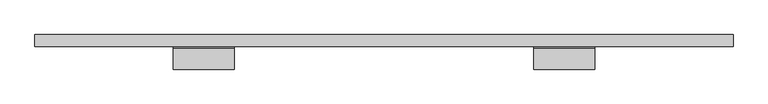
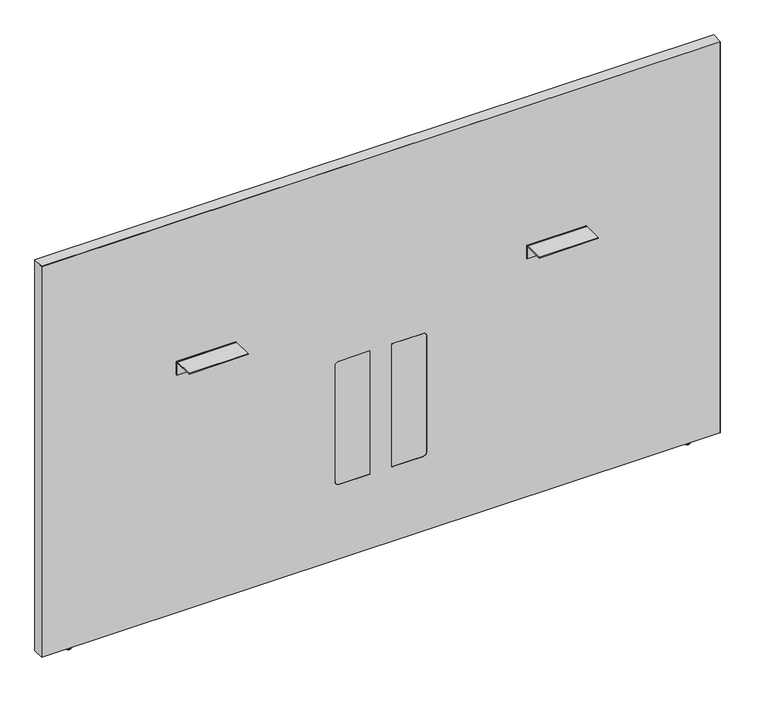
"""IFC4 building model written with IfcOpenShell, lengths in millimetres: furniture geometry, Steelcase - Answer Solution - Boundary Screen - Straight - Spanning : 42H x 69W."""

from ifc_helpers import new_model, si_unit, point, frame, frame_2d, origin, place, context, project, spatial, polyline, circle_curve, ellipse_curve, trimmed, segment, composite_curve, outline, extrude, source, transform, mapped, element, save
from ifc_brep_helpers import plane_surface, cylinder_surface, revolved_surface, advanced_brep


def furniture_e2635971(model_context):
    return source(origin(), model_context, "Body", "SolidModel", [
        advanced_brep(
        [(-569.2902705, -14.8449166, 9.9059849), (-569.2902705, -5.9309607, 9.9059849), (-569.2902705, -23.7588726, 9.9059849), (-569.2902705, -5.9309607, 2.9673238), (-569.2902705, -23.7588726, 2.9673238), (-569.2902705, -6.8982978, 2.9673238), (-569.2902705, -22.7915354, 2.9673238), (-569.2902705, -6.8982978, 1.6569081), (-569.2902705, -22.7915354, 1.6569081), (-569.2902705, -8.5552059, 0.0), (-569.2902705, -21.1346274, 0.0), (-569.2902705, -14.8449166, 0.0)],
        [
            (0, 1),
            (1, 2, circle_curve(frame((-569.2902705, -14.8449166, 9.9059849), z_axis=(0.0, 0.0, 1.0), x_axis=(0.0, 1.0, 0.0)), 8.913956)),
            (2, 0),
            (2, 1, circle_curve(frame((-569.2902705, -14.8449166, 9.9059849), z_axis=(0.0, 0.0, 1.0), x_axis=(0.0, 1.0, 0.0)), 8.913956)),
            (1, 3),
            (3, 4, circle_curve(frame((-569.2902705, -14.8449166, 2.9673238), z_axis=(0.0, 0.0, 1.0), x_axis=(0.0, 1.0, 0.0)), 8.913956)),
            (4, 2),
            (4, 3, circle_curve(frame((-569.2902705, -14.8449166, 2.9673238), z_axis=(0.0, 0.0, 1.0), x_axis=(0.0, 1.0, 0.0)), 8.913956)),
            (3, 5),
            (5, 6, circle_curve(frame((-569.2902705, -14.8449166, 2.9673238), z_axis=(0.0, 0.0, 1.0), x_axis=(0.0, 1.0, 0.0)), 7.9466188)),
            (6, 4),
            (6, 5, circle_curve(frame((-569.2902705, -14.8449166, 2.9673238), z_axis=(0.0, 0.0, 1.0), x_axis=(0.0, 1.0, 0.0)), 7.9466188)),
            (5, 7),
            (7, 8, circle_curve(frame((-569.2902705, -14.8449166, 1.6569081), z_axis=(0.0, 0.0, 1.0), x_axis=(0.0, 1.0, 0.0)), 7.9466188)),
            (8, 6),
            (8, 7, circle_curve(frame((-569.2902705, -14.8449166, 1.6569081), z_axis=(0.0, 0.0, 1.0), x_axis=(0.0, 1.0, 0.0)), 7.9466188)),
            (7, 9, circle_curve(frame((-569.2902705, -8.5552059, 1.6569081), z_axis=(-1.0, 0.0, 0.0), x_axis=(0.0, 1.0, 0.0)), 1.6569081)),
            (9, 10, circle_curve(frame((-569.2902705, -14.8449166, 0.0), z_axis=(0.0, 0.0, 1.0), x_axis=(0.0, 1.0, 0.0)), 6.2897107)),
            (10, 8, circle_curve(frame((-569.2902705, -21.1346274, 1.6569081), z_axis=(-1.0, 0.0, 0.0), x_axis=(0.0, -1.0, 0.0)), 1.6569081)),
            (10, 9, circle_curve(frame((-569.2902705, -14.8449166, 0.0), z_axis=(0.0, 0.0, 1.0), x_axis=(0.0, 1.0, 0.0)), 6.2897107)),
            (9, 11),
            (11, 10),
        ],
        [
            plane_surface(frame((-569.2902705, -14.8449166, 9.9059849), z_axis=(0.0, 0.0, 1.0), x_axis=(0.0, 1.0, 0.0))),
            cylinder_surface(frame((-569.2902705, -14.8449166, 9.9059849), z_axis=(0.0, 0.0, 1.0), x_axis=(0.0, 1.0, 0.0)), 8.913956),
            plane_surface(frame((-569.2902705, -14.8449166, 2.9673238), z_axis=(0.0, 0.0, -1.0), x_axis=(0.0, 1.0, 0.0))),
            cylinder_surface(frame((-569.2902705, -14.8449166, 9.9059849), z_axis=(0.0, 0.0, 1.0), x_axis=(0.0, 1.0, 0.0)), 7.9466188),
            revolved_surface(trimmed(ellipse_curve(frame((-569.2902705, -8.5552059, 1.6569081), z_axis=(1.0, 0.0, 0.0), x_axis=(0.0, 1.0, 0.0)), 1.6569081, 1.6569081), [point((-569.2902705, -8.5552059, 0.0))], [point((-569.2902705, -6.8982978, 1.6569081))], True, "CARTESIAN"), (-569.2902705, -14.8449166, 9.9059849), (0.0, 0.0, 1.0)),
            plane_surface(frame((-569.2902705, -14.8449166, 0.0), z_axis=(0.0, 0.0, -1.0), x_axis=(0.0, 1.0, 0.0))),
        ],
        [
            (0, [[1, 2, 3]]),
            (0, [[-3, 4, -1]]),
            (1, [[-2, 5, 6, 7]]),
            (1, [[-4, -7, 8, -5]]),
            (2, [[-6, 9, 10, 11]]),
            (2, [[-8, -11, 12, -9]]),
            (3, [[-10, 13, 14, 15]]),
            (3, [[-12, -15, 16, -13]]),
            (4, [[-14, 17, 18, 19]]),
            (4, [[-16, -19, 20, -17]]),
            (5, [[-18, 21, 22]]),
            (5, [[-20, -22, -21]]),
        ],
    ),
        extrude(outline(composite_curve([segment(polyline([(-86.8398151, 696.4680019), (-86.8398151, 698.5), (-34.9450855, 698.5)]), True, "CONTINUOUS"), segment(trimmed(circle_curve(frame_2d((-34.9450855, 693.2447477)), 5.2552523), [point((-34.9450855, 698.5))], [point((-29.6898332, 693.2447477))], False, "CARTESIAN"), True, "CONTINUOUS"), segment(polyline([(-29.6898332, 693.2447477), (-29.6898332, 660.4), (-31.7218162, 660.4), (-31.7218162, 693.0058743)]), True, "CONTINUOUS"), segment(trimmed(circle_curve(frame_2d((-35.1839438, 693.0058743)), 3.4621276), [point((-31.7218162, 693.0058743))], [point((-35.1839438, 696.4680019))], True, "CARTESIAN"), True, "CONTINUOUS"), segment(polyline([(-35.1839438, 696.4680019), (-86.8398151, 696.4680019)]), True, "CONTINUOUS")], self_intersect=False)), frame((605.9282189, 0.0, 0.0), z_axis=(1.0, 0.0, 0.0), x_axis=(0.0, 1.0, 0.0)), (0.0, 0.0, 1.0), 152.4000969),
        extrude(outline(composite_curve([segment(polyline([(-86.8398151, 696.4680019), (-86.8398151, 698.5), (-34.9450855, 698.5)]), True, "CONTINUOUS"), segment(trimmed(circle_curve(frame_2d((-34.9450855, 693.2447477)), 5.2552523), [point((-34.9450855, 698.5))], [point((-29.6898332, 693.2447477))], False, "CARTESIAN"), True, "CONTINUOUS"), segment(polyline([(-29.6898332, 693.2447477), (-29.6898332, 660.4), (-31.7218162, 660.4), (-31.7218162, 693.0058743)]), True, "CONTINUOUS"), segment(trimmed(circle_curve(frame_2d((-35.1839438, 693.0058743)), 3.4621276), [point((-31.7218162, 693.0058743))], [point((-35.1839438, 696.4680019))], True, "CARTESIAN"), True, "CONTINUOUS"), segment(polyline([(-35.1839438, 696.4680019), (-86.8398151, 696.4680019)]), True, "CONTINUOUS")], self_intersect=False)), frame((-298.6884581, 0.0, 0.0), z_axis=(1.0, 0.0, 0.0), x_axis=(0.0, 1.0, 0.0)), (0.0, 0.0, 1.0), 152.4000969),
        advanced_brep(
        [(1028.9286488, -23.7588726, 9.9059849), (1028.9286488, -5.9309607, 9.9059849), (1028.9286488, -14.8449166, 9.9059849), (1028.9286488, -23.7588726, 2.9673238), (1028.9286488, -5.9309607, 2.9673238), (1028.9286488, -22.7915354, 2.9673238), (1028.9286488, -6.8982978, 2.9673238), (1028.9286488, -22.7915354, 1.6569081), (1028.9286488, -6.8982978, 1.6569081), (1028.9286488, -21.1346274, 0.0), (1028.9286488, -8.5552059, 0.0), (1028.9286488, -14.8449166, 0.0)],
        [
            (0, 1, circle_curve(frame((1028.9286488, -14.8449166, 9.9059849), z_axis=(0.0, 0.0, 1.0), x_axis=(0.0, 1.0, 0.0)), 8.913956)),
            (1, 2),
            (2, 0),
            (1, 0, circle_curve(frame((1028.9286488, -14.8449166, 9.9059849), z_axis=(0.0, 0.0, 1.0), x_axis=(0.0, 1.0, 0.0)), 8.913956)),
            (3, 4, circle_curve(frame((1028.9286488, -14.8449166, 2.9673238), z_axis=(0.0, 0.0, 1.0), x_axis=(0.0, 1.0, 0.0)), 8.913956)),
            (4, 1),
            (0, 3),
            (4, 3, circle_curve(frame((1028.9286488, -14.8449166, 2.9673238), z_axis=(0.0, 0.0, 1.0), x_axis=(0.0, 1.0, 0.0)), 8.913956)),
            (5, 6, circle_curve(frame((1028.9286488, -14.8449166, 2.9673238), z_axis=(0.0, 0.0, 1.0), x_axis=(0.0, 1.0, 0.0)), 7.9466188)),
            (6, 4),
            (3, 5),
            (6, 5, circle_curve(frame((1028.9286488, -14.8449166, 2.9673238), z_axis=(0.0, 0.0, 1.0), x_axis=(0.0, 1.0, 0.0)), 7.9466188)),
            (7, 8, circle_curve(frame((1028.9286488, -14.8449166, 1.6569081), z_axis=(0.0, 0.0, 1.0), x_axis=(0.0, 1.0, 0.0)), 7.9466188)),
            (8, 6),
            (5, 7),
            (8, 7, circle_curve(frame((1028.9286488, -14.8449166, 1.6569081), z_axis=(0.0, 0.0, 1.0), x_axis=(0.0, 1.0, 0.0)), 7.9466188)),
            (9, 10, circle_curve(frame((1028.9286488, -14.8449166, 0.0), z_axis=(0.0, 0.0, 1.0), x_axis=(0.0, 1.0, 0.0)), 6.2897107)),
            (10, 8, circle_curve(frame((1028.9286488, -8.5552059, 1.6569081), z_axis=(1.0, 0.0, 0.0), x_axis=(0.0, 1.0, 0.0)), 1.6569081)),
            (7, 9, circle_curve(frame((1028.9286488, -21.1346274, 1.6569081), z_axis=(1.0, 0.0, 0.0), x_axis=(0.0, -1.0, 0.0)), 1.6569081)),
            (10, 9, circle_curve(frame((1028.9286488, -14.8449166, 0.0), z_axis=(0.0, 0.0, 1.0), x_axis=(0.0, 1.0, 0.0)), 6.2897107)),
            (11, 10),
            (9, 11),
        ],
        [
            plane_surface(frame((1028.9286488, -14.8449166, 9.9059849), z_axis=(0.0, 0.0, 1.0), x_axis=(0.0, 1.0, 0.0))),
            cylinder_surface(frame((1028.9286488, -14.8449166, 9.9059849), z_axis=(0.0, 0.0, -1.0), x_axis=(0.0, 1.0, 0.0)), 8.913956),
            plane_surface(frame((1028.9286488, -14.8449166, 2.9673238), z_axis=(0.0, 0.0, -1.0), x_axis=(0.0, 1.0, 0.0))),
            cylinder_surface(frame((1028.9286488, -14.8449166, 9.9059849), z_axis=(0.0, 0.0, -1.0), x_axis=(0.0, 1.0, 0.0)), 7.9466188),
            revolved_surface(trimmed(ellipse_curve(frame((1028.9286488, -8.5552059, 1.6569081), z_axis=(-1.0, 0.0, 0.0), x_axis=(0.0, 1.0, 0.0)), 1.6569081, 1.6569081), [point((1028.9286488, -6.8982978, 1.6569081))], [point((1028.9286488, -8.5552059, 0.0))], True, "CARTESIAN"), (1028.9286488, -14.8449166, 9.9059849), (0.0, 0.0, -1.0)),
            plane_surface(frame((1028.9286488, -14.8449166, 0.0), z_axis=(0.0, 0.0, -1.0), x_axis=(0.0, 1.0, 0.0))),
        ],
        [
            (0, [[1, 2, 3]]),
            (0, [[4, -3, -2]]),
            (1, [[5, 6, -1, 7]]),
            (1, [[8, -7, -4, -6]]),
            (2, [[9, 10, -5, 11]]),
            (2, [[12, -11, -8, -10]]),
            (3, [[13, 14, -9, 15]]),
            (3, [[16, -15, -12, -14]]),
            (4, [[17, 18, -13, 19]]),
            (4, [[20, -19, -16, -18]]),
            (5, [[21, -17, 22]]),
            (5, [[-22, -20, -21]]),
        ],
    ),
        advanced_brep(
        [(1105.0780168, 0.0, 1076.742118), (1105.0780168, 0.0, 9.9059849), (-645.4902221, 0.0, 9.9059849), (-645.4902221, 0.0, 1076.742118), (1105.0780168, -29.6898332, 1076.742118), (-645.4902221, -29.6898332, 1076.742118), (-645.4902221, -29.6898332, 9.9059849), (1105.0780168, -29.6898332, 9.9059849), (337.7883813, -29.6898332, 549.6162029), (347.9483813, -29.6898332, 539.4562029), (347.9483813, -29.6898332, 223.9362137), (337.7883813, -29.6898332, 213.7762137), (258.1344836, -29.6898332, 213.7762137), (258.1344836, -29.6898332, 549.6162029), (121.849997, -29.6898332, 549.6162029), (201.5038947, -29.6898332, 549.6162029), (201.5038947, -29.6898332, 213.7762137), (121.849997, -29.6898332, 213.7762137), (111.689997, -29.6898332, 223.9362137), (111.689997, -29.6898332, 539.4562029), (258.1344836, -29.0550397, 549.6162029), (337.7883813, -29.0550397, 549.6162029), (258.1344836, -29.0550397, 213.7762137), (337.7883813, -29.0550397, 213.7762137), (347.9483813, -29.0550397, 223.9362137), (347.9483813, -29.0550397, 539.4562029), (121.849997, -29.0550397, 549.6162029), (111.689997, -29.0550397, 539.4562029), (111.689997, -29.0550397, 223.9362137), (121.849997, -29.0550397, 213.7762137), (201.5038947, -29.0550397, 213.7762137), (201.5038947, -29.0550397, 549.6162029)],
        [
            (0, 1),
            (1, 2),
            (2, 3),
            (3, 0),
            (4, 5),
            (5, 6),
            (6, 7),
            (7, 4),
            (8, 9, circle_curve(frame((337.7883813, -29.6898332, 539.4562029), z_axis=(0.0, 1.0, 0.0), x_axis=(0.0, 0.0, 1.0)), 10.16)),
            (9, 10),
            (10, 11, circle_curve(frame((337.7883813, -29.6898332, 223.9362137), z_axis=(0.0, 1.0, 0.0), x_axis=(0.0, 0.0, 1.0)), 10.16)),
            (11, 12),
            (12, 13),
            (13, 8),
            (14, 15),
            (15, 16),
            (16, 17),
            (17, 18, circle_curve(frame((121.849997, -29.6898332, 223.9362137), z_axis=(0.0, 1.0, 0.0), x_axis=(0.0, 0.0, 1.0)), 10.16)),
            (18, 19),
            (19, 14, circle_curve(frame((121.849997, -29.6898332, 539.4562029), z_axis=(0.0, 1.0, 0.0), x_axis=(0.0, 0.0, 1.0)), 10.16)),
            (0, 4),
            (7, 1),
            (6, 2),
            (5, 3),
            (13, 20),
            (20, 21),
            (21, 8),
            (12, 22),
            (22, 20),
            (11, 23),
            (23, 22),
            (10, 24),
            (24, 23, circle_curve(frame((337.7883813, -29.0550397, 223.9362137), z_axis=(0.0, 1.0, 0.0), x_axis=(0.0, 0.0, 1.0)), 10.16)),
            (9, 25),
            (25, 24),
            (21, 25, circle_curve(frame((337.7883813, -29.0550397, 539.4562029), z_axis=(0.0, 1.0, 0.0), x_axis=(0.0, 0.0, 1.0)), 10.16)),
            (26, 27, circle_curve(frame((121.849997, -29.0550397, 539.4562029), z_axis=(0.0, -1.0, 0.0), x_axis=(0.0, 0.0, 1.0)), 10.16)),
            (27, 28),
            (28, 29, circle_curve(frame((121.849997, -29.0550397, 223.9362137), z_axis=(0.0, -1.0, 0.0), x_axis=(0.0, 0.0, 1.0)), 10.16)),
            (29, 30),
            (30, 31),
            (31, 26),
            (19, 27),
            (26, 14),
            (18, 28),
            (17, 29),
            (16, 30),
            (15, 31),
        ],
        [
            plane_surface(frame((1105.0780168, 0.0, 1076.742118), z_axis=(0.0, 1.0, 0.0), x_axis=(0.0, 0.0, -1.0))),
            plane_surface(frame((1105.0780168, -29.6898332, 1076.742118), z_axis=(0.0, -1.0, 0.0), x_axis=(0.0, 0.0, 1.0))),
            plane_surface(frame((1105.0780168, 0.0, 1076.742118), z_axis=(1.0, 0.0, 0.0), x_axis=(0.0, -1.0, 0.0))),
            plane_surface(frame((1105.0780168, 0.0, 9.9059849), z_axis=(0.0, 0.0, -1.0), x_axis=(0.0, -1.0, 0.0))),
            plane_surface(frame((-645.4902221, 0.0, 9.9059849), z_axis=(-1.0, 0.0, 0.0), x_axis=(0.0, -1.0, 0.0))),
            plane_surface(frame((-645.4902221, 0.0, 1076.742118), z_axis=(0.0, 0.0, 1.0), x_axis=(0.0, -1.0, 0.0))),
            plane_surface(frame((337.7883813, 0.0, 549.6162029), z_axis=(0.0, 0.0, -1.0), x_axis=(0.0, -1.0, 0.0))),
            plane_surface(frame((258.1344836, 0.0, 549.6162029), z_axis=(1.0, 0.0, 0.0), x_axis=(0.0, -1.0, 0.0))),
            plane_surface(frame((258.1344836, 0.0, 213.7762137), z_axis=(0.0, 0.0, 1.0), x_axis=(0.0, -1.0, 0.0))),
            revolved_surface(polyline([(337.7883813, -29.6898332, 234.0962137), (337.7883813, -29.0550397, 234.0962137)]), (337.7883813, -29.6898332, 223.9362137), (0.0, -1.0, 0.0)),
            plane_surface(frame((347.9483813, 0.0, 223.9362137), z_axis=(-1.0, 0.0, 0.0), x_axis=(0.0, -1.0, 0.0))),
            revolved_surface(polyline([(337.7883813, -29.6898332, 549.6162029), (337.7883813, -29.0550397, 549.6162029)]), (337.7883813, -29.6898332, 539.4562029), (0.0, -1.0, 0.0)),
            plane_surface(frame((347.9483813, -29.0550397, 549.6162029), z_axis=(0.0, -1.0, 0.0), x_axis=(0.0, 0.0, 1.0))),
            revolved_surface(polyline([(121.849997, -29.6898332, 549.6162029), (121.849997, -29.0550397, 549.6162029)]), (121.849997, -29.6898332, 539.4562029), (0.0, -1.0, 0.0)),
            plane_surface(frame((111.689997, 0.0, 539.4562029), z_axis=(1.0, 0.0, 0.0), x_axis=(0.0, -1.0, 0.0))),
            revolved_surface(polyline([(121.849997, -29.6898332, 234.0962137), (121.849997, -29.0550397, 234.0962137)]), (121.849997, -29.6898332, 223.9362137), (0.0, -1.0, 0.0)),
            plane_surface(frame((121.849997, 0.0, 213.7762137), z_axis=(0.0, 0.0, 1.0), x_axis=(0.0, -1.0, 0.0))),
            plane_surface(frame((201.5038947, 0.0, 213.7762137), z_axis=(-1.0, 0.0, 0.0), x_axis=(0.0, -1.0, 0.0))),
            plane_surface(frame((201.5038947, 0.0, 549.6162029), z_axis=(0.0, 0.0, -1.0), x_axis=(0.0, -1.0, 0.0))),
        ],
        [
            (0, [[1, 2, 3, 4]]),
            (1, [[5, 6, 7, 8], [9, 10, 11, 12, 13, 14], [15, 16, 17, 18, 19, 20]]),
            (2, [[-1, 21, -8, 22]]),
            (3, [[-2, -22, -7, 23]]),
            (4, [[-3, -23, -6, 24]]),
            (5, [[-4, -24, -5, -21]]),
            (6, [[-14, 25, 26, 27]]),
            (7, [[-13, 28, 29, -25]]),
            (8, [[-12, 30, 31, -28]]),
            (9, [[-11, 32, 33, -30]]),
            (10, [[-10, 34, 35, -32]]),
            (11, [[-9, -27, 36, -34]]),
            (12, [[-26, -29, -31, -33, -35, -36]]),
            (12, [[37, 38, 39, 40, 41, 42]]),
            (13, [[-20, 43, -37, 44]]),
            (14, [[-19, 45, -38, -43]]),
            (15, [[-18, 46, -39, -45]]),
            (16, [[-17, 47, -40, -46]]),
            (17, [[-16, 48, -41, -47]]),
            (18, [[-15, -44, -42, -48]]),
        ],
    ),
        extrude(outline(composite_curve([segment(polyline([(549.6162029, 337.7883813), (549.6162029, 258.1344836), (213.7762137, 258.1344836), (213.7762137, 337.7883813)]), True, "CONTINUOUS"), segment(trimmed(circle_curve(frame_2d((223.9362137, 337.7883813)), 10.16), [point((213.7762137, 337.7883813))], [point((223.9362137, 347.9483813))], False, "CARTESIAN"), True, "CONTINUOUS"), segment(polyline([(223.9362137, 347.9483813), (539.4562029, 347.9483813)]), True, "CONTINUOUS"), segment(trimmed(circle_curve(frame_2d((539.4562029, 337.7883813)), 10.16), [point((539.4562029, 347.9483813))], [point((549.6162029, 337.7883813))], False, "CARTESIAN"), True, "CONTINUOUS")], self_intersect=False)), frame((0.0, -29.6898332, 0.0), z_axis=(0.0, 1.0, 0.0), x_axis=(0.0, 0.0, 1.0)), (0.0, 0.0, 1.0), 0.6347935),
        extrude(outline(composite_curve([segment(trimmed(circle_curve(frame_2d((539.4562029, 121.849997)), 10.16), [point((549.6162029, 121.849997))], [point((539.4562029, 111.689997))], False, "CARTESIAN"), True, "CONTINUOUS"), segment(polyline([(539.4562029, 111.689997), (223.9362137, 111.689997)]), True, "CONTINUOUS"), segment(trimmed(circle_curve(frame_2d((223.9362137, 121.849997)), 10.16), [point((223.9362137, 111.689997))], [point((213.7762137, 121.849997))], False, "CARTESIAN"), True, "CONTINUOUS"), segment(polyline([(213.7762137, 121.849997), (213.7762137, 201.5038947), (549.6162029, 201.5038947), (549.6162029, 121.849997)]), True, "CONTINUOUS")], self_intersect=False)), frame((0.0, -29.6898332, 0.0), z_axis=(0.0, 1.0, 0.0), x_axis=(0.0, 0.0, 1.0)), (0.0, 0.0, 1.0), 0.6347935),
        extrude(outline(polyline([(1077.722, 1106.1191891), (1077.722, -646.4808109), (9.9059849, -646.4808109), (9.9059849, -645.4902221), (1076.742118, -645.4902221), (1076.742118, 1105.0780168), (9.9059849, 1105.0780168), (9.9059849, 1106.1191891), (1077.722, 1106.1191891)])), frame((0.0, -29.6898332, 0.0), z_axis=(0.0, 1.0, 0.0), x_axis=(0.0, 0.0, 1.0)), (0.0, 0.0, 1.0), 29.6898332),
    ])


if __name__ == "__main__":
    model = new_model("IFC4")
    model_context = context("Model", 3, world=origin())
    ifc_project = project(units=[si_unit("LENGTHUNIT", "METRE", prefix="MILLI")], contexts=[model_context])
    site = spatial("IfcSite", under=ifc_project)
    building = spatial("IfcBuilding", under=site)
    placement = place(None, origin())
    furniture_shape = furniture_e2635971(model_context)
    element("IfcFurniture", 1, ObjectType="Steelcase - Answer Solution - Boundary Screen - Straight - Spanning : 42H x 69W", at=placement, inside=building, context=model_context, shape_type="MappedRepresentation", body=[
        mapped(furniture_shape, transform((0.0, 0.0, 0.0), x_axis=(1.0, 0.0, 0.0), y_axis=(0.0, 1.0, 0.0), z_axis=(0.0, 0.0, 1.0))),
    ])
    save(model, "model.ifc")
